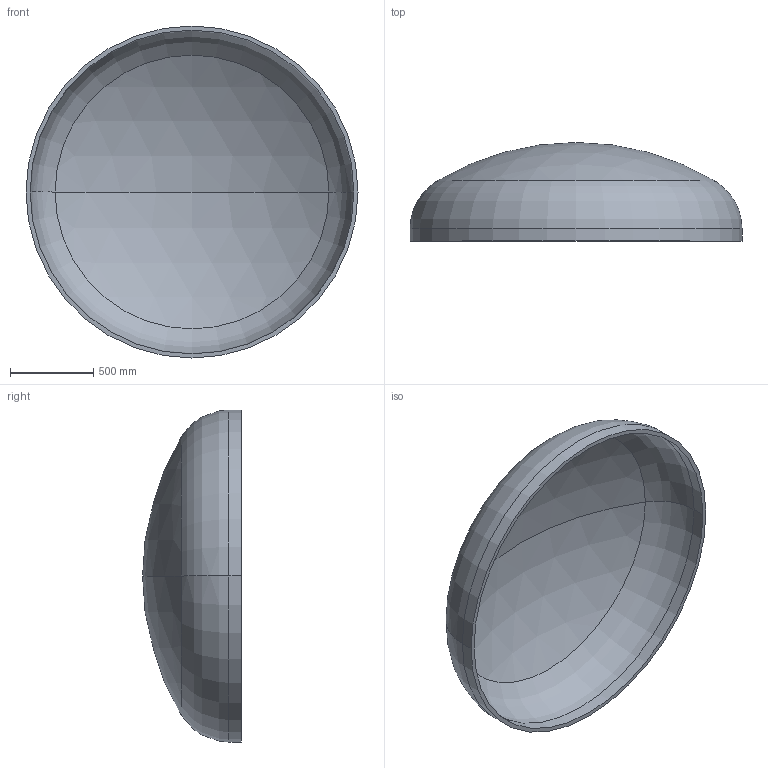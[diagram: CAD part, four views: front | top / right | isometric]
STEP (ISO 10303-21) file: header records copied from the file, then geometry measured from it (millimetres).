
FILE_DESCRIPTION (( 'STEP AP203' ), '1' );
FILE_NAME ('DIN 28013 Korbbogenform_-_Boden DIN 28013 - 2000 x 75 - I - s=25.step', '2016-07-01T13:43:50', ( '' ), ( '' ), 'SwSTEP 2.0', 'SolidWorks 2013', '' );
FILE_SCHEMA (( 'CONFIG_CONTROL_DESIGN' ));
Length unit declared in the file: millimetre
Products named in the file (1): DIN 28013 Korbbogenform_-_Boden DIN 28013 - 2000 x 75 - I - s=25
Bounding box: 2000 x 594.62 x 2000 mm (x, y, z)
Volume: 118764195.1 mm3; surface area: 9657557.4 mm2
Topology: 1 solids, 1 shells, 13 faces, 24 edges, 14 vertices
Faces by surface type: torus 4, cylinder 4, sphere 4, plane 1
Entity records: 407 total; most frequent: DIRECTION 72, CARTESIAN_POINT 52, ORIENTED_EDGE 48, AXIS2_PLACEMENT_3D 34, EDGE_CURVE 24, CIRCLE 20, EDGE_LOOP 14, VERTEX_POINT 14
